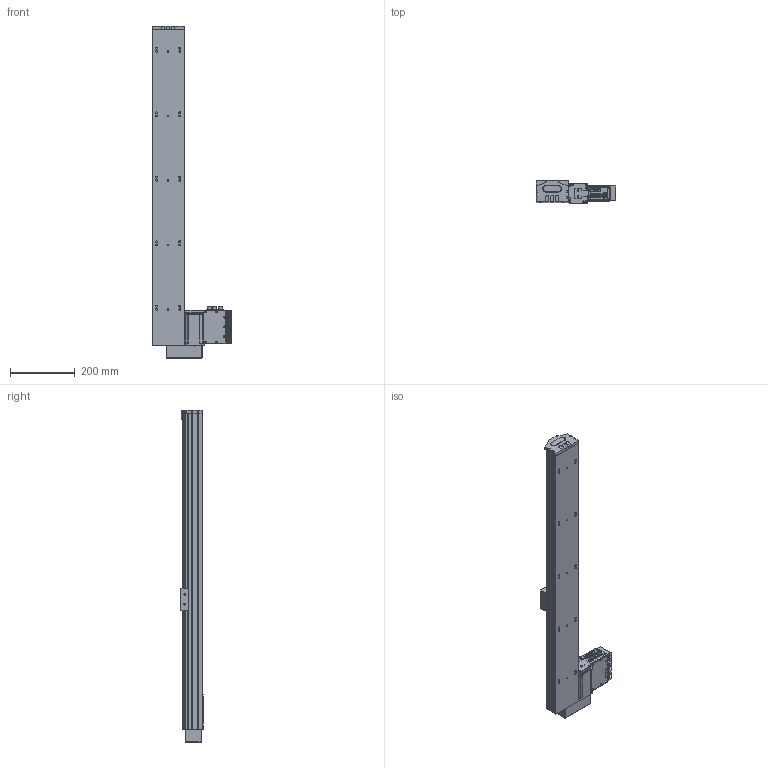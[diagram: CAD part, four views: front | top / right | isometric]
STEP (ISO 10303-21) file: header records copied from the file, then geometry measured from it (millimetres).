
FILE_DESCRIPTION (( 'STEP AP203' ), '1' );
FILE_NAME ('S10 TSN BR S800.STEP', '2012-09-03T08:49:12', ( 'Conseil Régional Haute-Normandie' ), ( 'Conseil Régional Haute-Normandie' ), 'SwSTEP 2.0', 'SolidWorks 2010', '' );
FILE_SCHEMA (( 'CONFIG_CONTROL_DESIGN' ));
Length unit declared in the file: millimetre
Products named in the file (25): S10 TSN BR S800; BU45 Carte d''axe A11_5; Moteur 60BLDC90A_3; Sub D 9cts 90_X2_00B_X0__3; Radiateur profil_X2_00E9_X0_ 100x25_3; Colonnette ronde_3; axe987; renvoi LH_Default; Vis TF 3 torkx; Assem1_7; T_X2_00F4_X0_le contre le moteur_5; BU41 Carte Alimentation P05_3; Colonnette_3; Couvercle_3; T_X2_00F4_X0_le fond_3; Connecteur rond D10 3cts_5; Connecteur rond D12 4cts_5; T_X2_00F4_X0_le Arri_X2_00E8_X0_re_5; T_X2_00F4_X0_le lat_X2_00E9_X0_rale_5; Vis TF 3 torkx_1_1; palette tbn; piece_plastique remplie_Default; embout_modifié; remplir_Default; Pièce2_Default
Assembly tree (55 placements, depth 3):
  S10 TSN BR S800
    Vis TF 3 torkx  x7
    axe987
    piece_plastique remplie_Default
      remplir_Default  x3
      embout_modifié
      Pièce2_Default
    palette tbn
    renvoi LH_Default
    Assem1_7
      Vis TF 3 torkx_1_1  x21
      Radiateur profil_X2_00E9_X0_ 100x25_3
      Colonnette ronde_3
      Sub D 9cts 90_X2_00B_X0__3
      T_X2_00F4_X0_le contre le moteur_5
      T_X2_00F4_X0_le fond_3
      T_X2_00F4_X0_le lat_X2_00E9_X0_rale_5  x2
      Colonnette_3  x2
      Moteur 60BLDC90A_3
      Connecteur rond D10 3cts_5  x2
      BU45 Carte d''axe A11_5
      T_X2_00F4_X0_le Arri_X2_00E8_X0_re_5
      BU41 Carte Alimentation P05_3
      Couvercle_3
      Connecteur rond D12 4cts_5
Bounding box: 248 x 69.13 x 1029.5 mm (x, y, z)
Volume: 5794548.8 mm3; surface area: 733576.5 mm2
Topology: 53 solids, 53 shells, 1969 faces, 5010 edges, 3266 vertices
Faces by surface type: plane 927, cylinder 879, cone 156, bspline 4, torus 3
Entity records: 38755 total; most frequent: CARTESIAN_POINT 6545, DIRECTION 6307, ORIENTED_EDGE 5728, EDGE_CURVE 2864, AXIS2_PLACEMENT_3D 2317, VERTEX_POINT 1878, VECTOR 1673, LINE 1673
